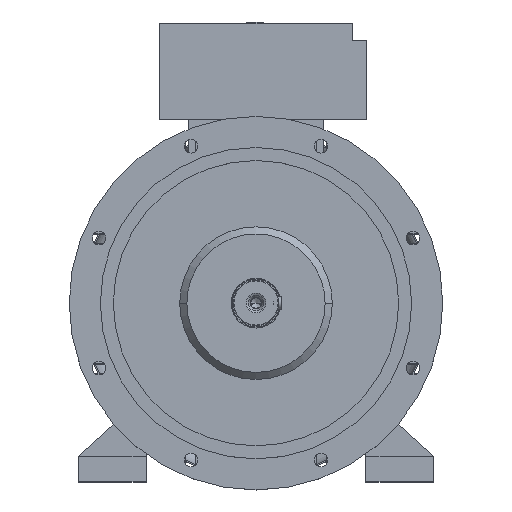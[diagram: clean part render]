
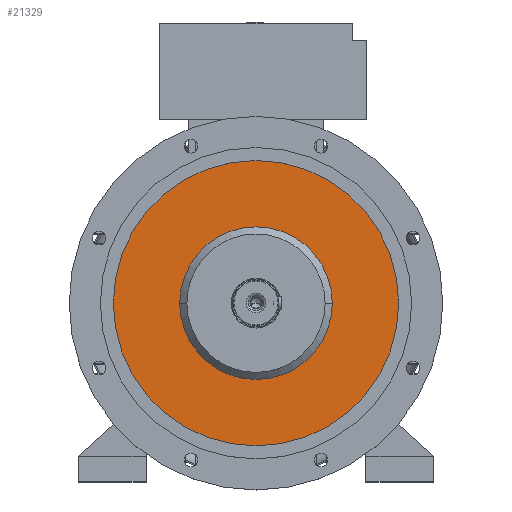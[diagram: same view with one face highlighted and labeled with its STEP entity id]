
A CAD part, top view. The second image highlights one B-rep face of the part: STEP entity #21329.
In plain terms, the highlighted planar face has unit normal (0, 0, 1).
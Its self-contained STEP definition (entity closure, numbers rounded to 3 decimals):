
#462 = DIRECTION ( 'NONE',  ( 1., 0., 0. ) ) ;
#471 = ORIENTED_EDGE ( 'NONE', *, *, #14912, .T. ) ;
#3068 = AXIS2_PLACEMENT_3D ( 'NONE', #23518, #15264, #4635 ) ;
#3755 = FACE_BOUND ( 'NONE', #8403, .T. ) ;
#4137 = CARTESIAN_POINT ( 'NONE',  ( 0., 0., 455.4 ) ) ;
#4584 = DIRECTION ( 'NONE',  ( -1., 0., 0. ) ) ;
#4635 = DIRECTION ( 'NONE',  ( -1., 0., 0. ) ) ;
#4871 = AXIS2_PLACEMENT_3D ( 'NONE', #20379, #14142, #5603 ) ;
#5471 = ORIENTED_EDGE ( 'NONE', *, *, #13528, .T. ) ;
#5603 = DIRECTION ( 'NONE',  ( -1., 0., 0. ) ) ;
#5937 = CARTESIAN_POINT ( 'NONE',  ( -134.8, 0., 455.4 ) ) ;
#6077 = EDGE_CURVE ( 'NONE', #26131, #10856, #22374, .T. ) ;
#6264 = DIRECTION ( 'NONE',  ( -1., 0., 0. ) ) ;
#6437 = EDGE_CURVE ( 'NONE', #10856, #26131, #18809, .T. ) ;
#6824 = VERTEX_POINT ( 'NONE', #5937 ) ;
#8403 = EDGE_LOOP ( 'NONE', ( #471, #5471 ) ) ;
#9463 = CIRCLE ( 'NONE', #23981, 134.8 ) ;
#10856 = VERTEX_POINT ( 'NONE', #13862 ) ;
#10860 = CARTESIAN_POINT ( 'NONE',  ( 0., 252.083, 455.4 ) ) ;
#12952 = PLANE ( 'NONE',  #17014 ) ;
#13046 = DIRECTION ( 'NONE',  ( 0., 0., 1. ) ) ;
#13449 = AXIS2_PLACEMENT_3D ( 'NONE', #25287, #17042, #4584 ) ;
#13528 = EDGE_CURVE ( 'NONE', #17599, #6824, #14860, .T. ) ;
#13862 = CARTESIAN_POINT ( 'NONE',  ( 252.083, 0., 455.4 ) ) ;
#14142 = DIRECTION ( 'NONE',  ( 0., 0., 1. ) ) ;
#14860 = CIRCLE ( 'NONE', #3068, 134.8 ) ;
#14912 = EDGE_CURVE ( 'NONE', #6824, #17599, #9463, .T. ) ;
#15264 = DIRECTION ( 'NONE',  ( 0., 0., -1. ) ) ;
#15899 = ORIENTED_EDGE ( 'NONE', *, *, #6077, .T. ) ;
#17014 = AXIS2_PLACEMENT_3D ( 'NONE', #10860, #13046, #462 ) ;
#17042 = DIRECTION ( 'NONE',  ( 0., 0., 1. ) ) ;
#17599 = VERTEX_POINT ( 'NONE', #19480 ) ;
#18693 = DIRECTION ( 'NONE',  ( 0., 0., -1. ) ) ;
#18809 = CIRCLE ( 'NONE', #13449, 252.083 ) ;
#19480 = CARTESIAN_POINT ( 'NONE',  ( 134.8, 0., 455.4 ) ) ;
#19864 = EDGE_LOOP ( 'NONE', ( #15899, #21733 ) ) ;
#20379 = CARTESIAN_POINT ( 'NONE',  ( 0., 0., 455.4 ) ) ;
#21329 = ADVANCED_FACE ( 'NONE', ( #3755, #25871 ), #12952, .T. ) ;
#21733 = ORIENTED_EDGE ( 'NONE', *, *, #6437, .T. ) ;
#22374 = CIRCLE ( 'NONE', #4871, 252.083 ) ;
#23518 = CARTESIAN_POINT ( 'NONE',  ( 0., 0., 455.4 ) ) ;
#23981 = AXIS2_PLACEMENT_3D ( 'NONE', #4137, #18693, #6264 ) ;
#25287 = CARTESIAN_POINT ( 'NONE',  ( 0., 0., 455.4 ) ) ;
#25871 = FACE_OUTER_BOUND ( 'NONE', #19864, .T. ) ;
#26131 = VERTEX_POINT ( 'NONE', #26347 ) ;
#26347 = CARTESIAN_POINT ( 'NONE',  ( -252.083, 0., 455.4 ) ) ;
